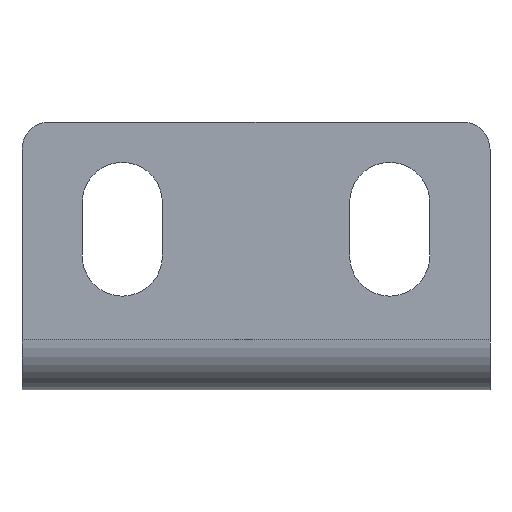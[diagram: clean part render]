
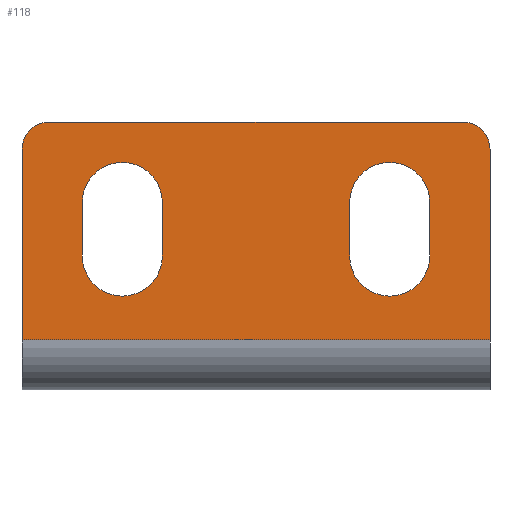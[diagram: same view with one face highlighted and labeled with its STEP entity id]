
A CAD part, front view. The second image highlights one B-rep face of the part: STEP entity #118.
In plain terms, the highlighted planar face has unit normal (0, -1, 0).
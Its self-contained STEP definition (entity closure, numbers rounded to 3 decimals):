
#5 = CIRCLE ( 'NONE', #230, 3. ) ;
#16 = DIRECTION ( 'NONE',  ( 0., 0., -1. ) ) ;
#19 = CARTESIAN_POINT ( 'NONE',  ( 10., 0., 14. ) ) ;
#22 = CARTESIAN_POINT ( 'NONE',  ( -13., 0., 14. ) ) ;
#25 = CARTESIAN_POINT ( 'NONE',  ( 17.5, 0., 0. ) ) ;
#30 = CARTESIAN_POINT ( 'NONE',  ( 17.5, 0., 0. ) ) ;
#46 = DIRECTION ( 'NONE',  ( 0., 1., 0. ) ) ;
#47 = ORIENTED_EDGE ( 'NONE', *, *, #1215, .T. ) ;
#58 = VERTEX_POINT ( 'NONE', #579 ) ;
#71 = ORIENTED_EDGE ( 'NONE', *, *, #850, .T. ) ;
#100 = CARTESIAN_POINT ( 'NONE',  ( -10., 0., 17. ) ) ;
#109 = DIRECTION ( 'NONE',  ( 0., 0., -1. ) ) ;
#115 = DIRECTION ( 'NONE',  ( 0., 0., -1. ) ) ;
#118 = ADVANCED_FACE ( 'NONE', ( #919, #1209, #401 ), #422, .T. ) ;
#146 = DIRECTION ( 'NONE',  ( 0., -1., 0. ) ) ;
#154 = VERTEX_POINT ( 'NONE', #1040 ) ;
#159 = DIRECTION ( 'NONE',  ( 0., 0., -1. ) ) ;
#167 = CARTESIAN_POINT ( 'NONE',  ( -15.5, 0., 20. ) ) ;
#168 = ORIENTED_EDGE ( 'NONE', *, *, #832, .T. ) ;
#169 = CARTESIAN_POINT ( 'NONE',  ( -15.5, 0., 18. ) ) ;
#172 = AXIS2_PLACEMENT_3D ( 'NONE', #716, #714, #710 ) ;
#181 = AXIS2_PLACEMENT_3D ( 'NONE', #847, #836, #834 ) ;
#194 = DIRECTION ( 'NONE',  ( 0., 0., -1. ) ) ;
#198 = CARTESIAN_POINT ( 'NONE',  ( -7., 0., 10. ) ) ;
#211 = CARTESIAN_POINT ( 'NONE',  ( 13., 0., 14. ) ) ;
#230 = AXIS2_PLACEMENT_3D ( 'NONE', #19, #46, #1176 ) ;
#238 = AXIS2_PLACEMENT_3D ( 'NONE', #169, #146, #115 ) ;
#252 = VERTEX_POINT ( 'NONE', #1072 ) ;
#257 = VERTEX_POINT ( 'NONE', #198 ) ;
#282 = ORIENTED_EDGE ( 'NONE', *, *, #1018, .T. ) ;
#287 = CARTESIAN_POINT ( 'NONE',  ( 10., 0., 14. ) ) ;
#288 = CARTESIAN_POINT ( 'NONE',  ( 13., 0., 14. ) ) ;
#290 = LINE ( 'NONE', #211, #407 ) ;
#303 = ORIENTED_EDGE ( 'NONE', *, *, #1174, .T. ) ;
#326 = CIRCLE ( 'NONE', #410, 3. ) ;
#328 = DIRECTION ( 'NONE',  ( 0., 0., 1. ) ) ;
#330 = VERTEX_POINT ( 'NONE', #795 ) ;
#332 = ORIENTED_EDGE ( 'NONE', *, *, #1034, .F. ) ;
#358 = ORIENTED_EDGE ( 'NONE', *, *, #942, .T. ) ;
#380 = AXIS2_PLACEMENT_3D ( 'NONE', #574, #1253, #16 ) ;
#393 = AXIS2_PLACEMENT_3D ( 'NONE', #287, #813, #762 ) ;
#401 = FACE_OUTER_BOUND ( 'NONE', #494, .T. ) ;
#407 = VECTOR ( 'NONE', #194, 1000. ) ;
#410 = AXIS2_PLACEMENT_3D ( 'NONE', #640, #648, #658 ) ;
#421 = LINE ( 'NONE', #472, #1272 ) ;
#422 = PLANE ( 'NONE',  #504 ) ;
#441 = VERTEX_POINT ( 'NONE', #100 ) ;
#443 = VERTEX_POINT ( 'NONE', #606 ) ;
#463 = DIRECTION ( 'NONE',  ( 0., 0., 1. ) ) ;
#472 = CARTESIAN_POINT ( 'NONE',  ( 7., 0., 14. ) ) ;
#486 = CARTESIAN_POINT ( 'NONE',  ( -13., 0., 14. ) ) ;
#493 = VERTEX_POINT ( 'NONE', #882 ) ;
#494 = EDGE_LOOP ( 'NONE', ( #1173, #816, #332, #781, #358, #303 ) ) ;
#504 = AXIS2_PLACEMENT_3D ( 'NONE', #25, #1134, #109 ) ;
#536 = CARTESIAN_POINT ( 'NONE',  ( 17.5, 0., 3.737 ) ) ;
#553 = VECTOR ( 'NONE', #328, 1000. ) ;
#556 = VERTEX_POINT ( 'NONE', #1154 ) ;
#574 = CARTESIAN_POINT ( 'NONE',  ( -10., 0., 10. ) ) ;
#575 = LINE ( 'NONE', #30, #553 ) ;
#579 = CARTESIAN_POINT ( 'NONE',  ( 10., 0., 17. ) ) ;
#586 = ORIENTED_EDGE ( 'NONE', *, *, #983, .T. ) ;
#599 = EDGE_LOOP ( 'NONE', ( #71, #751, #586, #47, #824 ) ) ;
#606 = CARTESIAN_POINT ( 'NONE',  ( 17.5, 0., 18. ) ) ;
#613 = DIRECTION ( 'NONE',  ( 0., 0., 1. ) ) ;
#622 = CARTESIAN_POINT ( 'NONE',  ( 15.5, 0., 20. ) ) ;
#628 = VECTOR ( 'NONE', #613, 1000. ) ;
#635 = AXIS2_PLACEMENT_3D ( 'NONE', #1222, #1214, #1093 ) ;
#640 = CARTESIAN_POINT ( 'NONE',  ( -10., 0., 14. ) ) ;
#648 = DIRECTION ( 'NONE',  ( 0., 1., 0. ) ) ;
#656 = VERTEX_POINT ( 'NONE', #536 ) ;
#658 = DIRECTION ( 'NONE',  ( 0., 0., -1. ) ) ;
#685 = VERTEX_POINT ( 'NONE', #1151 ) ;
#690 = ORIENTED_EDGE ( 'NONE', *, *, #1025, .T. ) ;
#710 = DIRECTION ( 'NONE',  ( 0., 0., -1. ) ) ;
#714 = DIRECTION ( 'NONE',  ( 0., 1., 0. ) ) ;
#716 = CARTESIAN_POINT ( 'NONE',  ( 10., 0., 10. ) ) ;
#743 = VECTOR ( 'NONE', #159, 1000. ) ;
#749 = ORIENTED_EDGE ( 'NONE', *, *, #758, .T. ) ;
#751 = ORIENTED_EDGE ( 'NONE', *, *, #770, .T. ) ;
#758 = EDGE_CURVE ( 'NONE', #441, #493, #326, .T. ) ;
#762 = DIRECTION ( 'NONE',  ( 0., 0., -1. ) ) ;
#770 = EDGE_CURVE ( 'NONE', #58, #1075, #1202, .T. ) ;
#780 = LINE ( 'NONE', #917, #783 ) ;
#781 = ORIENTED_EDGE ( 'NONE', *, *, #1195, .F. ) ;
#783 = VECTOR ( 'NONE', #932, 1000. ) ;
#787 = CIRCLE ( 'NONE', #380, 3. ) ;
#789 = EDGE_CURVE ( 'NONE', #1251, #987, #780, .T. ) ;
#795 = CARTESIAN_POINT ( 'NONE',  ( 7., 0., 14. ) ) ;
#813 = DIRECTION ( 'NONE',  ( 0., 1., 0. ) ) ;
#816 = ORIENTED_EDGE ( 'NONE', *, *, #1096, .T. ) ;
#824 = ORIENTED_EDGE ( 'NONE', *, *, #1027, .T. ) ;
#831 = CARTESIAN_POINT ( 'NONE',  ( 17.5, 0., 3.737 ) ) ;
#832 = EDGE_CURVE ( 'NONE', #257, #888, #787, .T. ) ;
#834 = DIRECTION ( 'NONE',  ( 0., 0., -1. ) ) ;
#836 = DIRECTION ( 'NONE',  ( 0., -1., 0. ) ) ;
#847 = CARTESIAN_POINT ( 'NONE',  ( 15.5, 0., 18. ) ) ;
#850 = EDGE_CURVE ( 'NONE', #330, #58, #5, .T. ) ;
#868 = DIRECTION ( 'NONE',  ( -1., 0., 0. ) ) ;
#882 = CARTESIAN_POINT ( 'NONE',  ( -7., 0., 14. ) ) ;
#888 = VERTEX_POINT ( 'NONE', #904 ) ;
#904 = CARTESIAN_POINT ( 'NONE',  ( -13., 0., 10. ) ) ;
#917 = CARTESIAN_POINT ( 'NONE',  ( 17.5, 0., 20. ) ) ;
#919 = FACE_BOUND ( 'NONE', #599, .T. ) ;
#932 = DIRECTION ( 'NONE',  ( -1., 0., 0. ) ) ;
#942 = EDGE_CURVE ( 'NONE', #656, #443, #575, .T. ) ;
#955 = VERTEX_POINT ( 'NONE', #22 ) ;
#983 = EDGE_CURVE ( 'NONE', #1075, #556, #290, .T. ) ;
#985 = VECTOR ( 'NONE', #1109, 1000. ) ;
#987 = VERTEX_POINT ( 'NONE', #167 ) ;
#1018 = EDGE_CURVE ( 'NONE', #493, #257, #1135, .T. ) ;
#1025 = EDGE_CURVE ( 'NONE', #955, #441, #1263, .T. ) ;
#1027 = EDGE_CURVE ( 'NONE', #252, #330, #421, .T. ) ;
#1034 = EDGE_CURVE ( 'NONE', #154, #685, #1177, .T. ) ;
#1040 = CARTESIAN_POINT ( 'NONE',  ( -17.5, 0., 3.737 ) ) ;
#1058 = EDGE_CURVE ( 'NONE', #888, #955, #1205, .T. ) ;
#1060 = CARTESIAN_POINT ( 'NONE',  ( -17.5, 0., 0. ) ) ;
#1072 = CARTESIAN_POINT ( 'NONE',  ( 7., 0., 10. ) ) ;
#1075 = VERTEX_POINT ( 'NONE', #288 ) ;
#1077 = LINE ( 'NONE', #831, #1112 ) ;
#1084 = CIRCLE ( 'NONE', #181, 2. ) ;
#1093 = DIRECTION ( 'NONE',  ( 0., 0., -1. ) ) ;
#1096 = EDGE_CURVE ( 'NONE', #987, #685, #1118, .T. ) ;
#1109 = DIRECTION ( 'NONE',  ( 0., 0., 1. ) ) ;
#1112 = VECTOR ( 'NONE', #868, 1000. ) ;
#1114 = CARTESIAN_POINT ( 'NONE',  ( -7., 0., 14. ) ) ;
#1116 = CIRCLE ( 'NONE', #172, 3. ) ;
#1118 = CIRCLE ( 'NONE', #238, 2. ) ;
#1122 = EDGE_LOOP ( 'NONE', ( #690, #749, #282, #168, #1213 ) ) ;
#1134 = DIRECTION ( 'NONE',  ( 0., -1., 0. ) ) ;
#1135 = LINE ( 'NONE', #1114, #743 ) ;
#1151 = CARTESIAN_POINT ( 'NONE',  ( -17.5, 0., 18. ) ) ;
#1154 = CARTESIAN_POINT ( 'NONE',  ( 13., 0., 10. ) ) ;
#1173 = ORIENTED_EDGE ( 'NONE', *, *, #789, .T. ) ;
#1174 = EDGE_CURVE ( 'NONE', #443, #1251, #1084, .T. ) ;
#1176 = DIRECTION ( 'NONE',  ( 0., 0., -1. ) ) ;
#1177 = LINE ( 'NONE', #1060, #985 ) ;
#1195 = EDGE_CURVE ( 'NONE', #656, #154, #1077, .T. ) ;
#1202 = CIRCLE ( 'NONE', #393, 3. ) ;
#1205 = LINE ( 'NONE', #486, #628 ) ;
#1209 = FACE_BOUND ( 'NONE', #1122, .T. ) ;
#1213 = ORIENTED_EDGE ( 'NONE', *, *, #1058, .T. ) ;
#1214 = DIRECTION ( 'NONE',  ( 0., 1., 0. ) ) ;
#1215 = EDGE_CURVE ( 'NONE', #556, #252, #1116, .T. ) ;
#1222 = CARTESIAN_POINT ( 'NONE',  ( -10., 0., 14. ) ) ;
#1251 = VERTEX_POINT ( 'NONE', #622 ) ;
#1253 = DIRECTION ( 'NONE',  ( 0., 1., 0. ) ) ;
#1263 = CIRCLE ( 'NONE', #635, 3. ) ;
#1272 = VECTOR ( 'NONE', #463, 1000. ) ;
